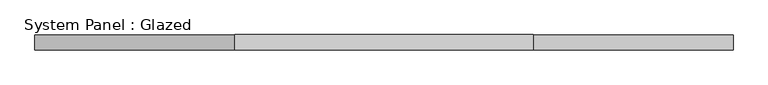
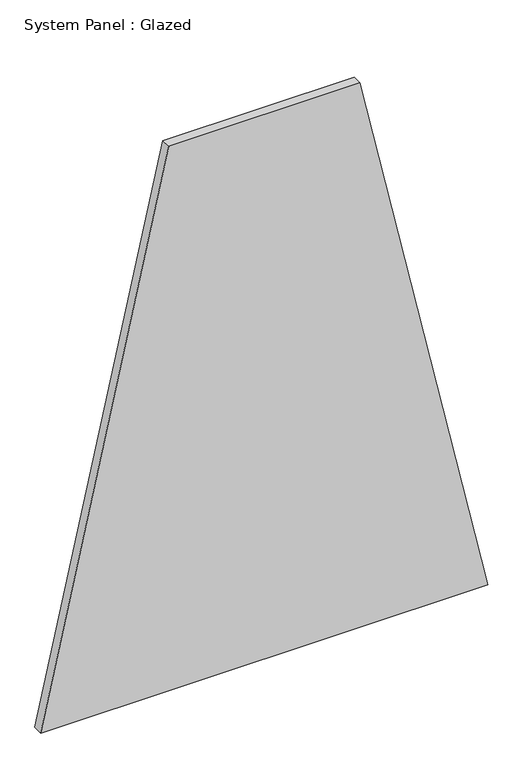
"""IFC4 building model written with IfcOpenShell, lengths in millimetres: plate geometry, System Panel : Glazed."""

from ifc_helpers import new_model, si_unit, frame, origin, place, context, project, spatial, polyline, outline, extrude, source, transform, mapped, element, save


def system_panel_glazed_b2bf2ea4(model_context):
    return source(origin(), model_context, "Body", "SweptSolid", [
        extrude(outline(polyline([(0.0, -577.988501), (0.0, 577.988501), (1487.6112992, 246.9467778), (1487.6112992, -246.9467778), (0.0, -577.988501)])), frame((0.0, -44.45, 0.0), z_axis=(0.0, 1.0, 0.0), x_axis=(0.0, 0.0, 1.0)), (0.0, 0.0, 1.0), 25.4),
    ])


if __name__ == "__main__":
    model = new_model("IFC4")
    model_context = context("Model", 3, world=origin())
    ifc_project = project(units=[si_unit("LENGTHUNIT", "METRE", prefix="MILLI")], contexts=[model_context])
    site = spatial("IfcSite", under=ifc_project)
    building = spatial("IfcBuilding", under=site)
    placement = place(None, origin())
    system_panel_glazed_shape = system_panel_glazed_b2bf2ea4(model_context)
    element("IfcPlate", 1, ObjectType="System Panel : Glazed", at=placement, inside=building, context=model_context, shape_type="MappedRepresentation", body=[
        mapped(system_panel_glazed_shape, transform((0.0, 0.0, 0.0), x_axis=(1.0, 0.0, 0.0), y_axis=(0.0, 1.0, 0.0), z_axis=(0.0, 0.0, 1.0))),
    ])
    save(model, "model.ifc")
